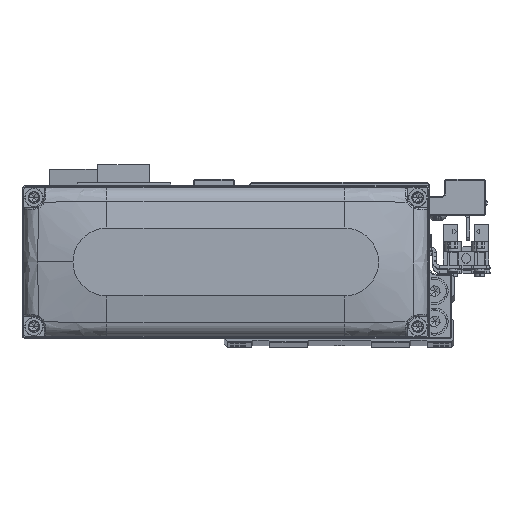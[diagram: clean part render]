
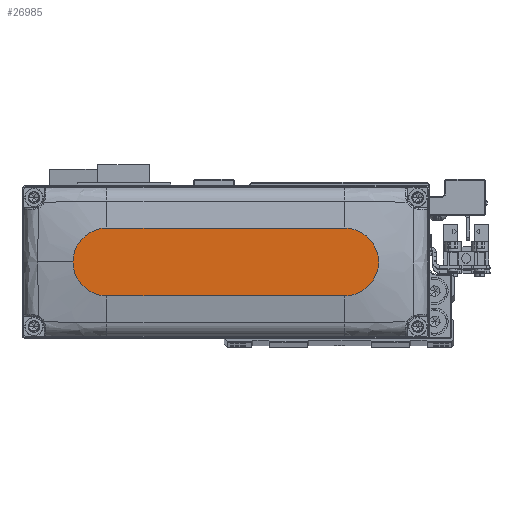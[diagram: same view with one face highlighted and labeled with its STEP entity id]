
A CAD part, top view. The second image highlights one B-rep face of the part: STEP entity #26985.
In plain terms, the highlighted planar face has unit normal (0, 0, 1).
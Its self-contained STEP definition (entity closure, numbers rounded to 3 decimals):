
#1045 = FACE_OUTER_BOUND ( 'NONE', #28909, .T. ) ;
#1625 = VERTEX_POINT ( 'NONE', #28971 ) ;
#2260 = ORIENTED_EDGE ( 'NONE', *, *, #12380, .T. ) ;
#2502 = LINE ( 'NONE', #25217, #3162 ) ;
#2569 = ORIENTED_EDGE ( 'NONE', *, *, #34926, .T. ) ;
#3162 = VECTOR ( 'NONE', #38190, 1000. ) ;
#4878 = AXIS2_PLACEMENT_3D ( 'NONE', #12886, #25825, #38795 ) ;
#5154 = DIRECTION ( 'NONE',  ( 1., 0., 0. ) ) ;
#5607 = DIRECTION ( 'NONE',  ( 0., 0., 1. ) ) ;
#7333 = CARTESIAN_POINT ( 'NONE',  ( 35., 10., 28. ) ) ;
#7500 = CARTESIAN_POINT ( 'NONE',  ( -35., -10., 28. ) ) ;
#9710 = CARTESIAN_POINT ( 'NONE',  ( -35., -10., 28. ) ) ;
#10391 = CIRCLE ( 'NONE', #34169, 10. ) ;
#10815 = DIRECTION ( 'NONE',  ( 1., 0., 0. ) ) ;
#10872 = AXIS2_PLACEMENT_3D ( 'NONE', #21295, #34256, #5154 ) ;
#11073 = VECTOR ( 'NONE', #22690, 1000. ) ;
#12380 = EDGE_CURVE ( 'NONE', #36942, #1625, #38838, .T. ) ;
#12886 = CARTESIAN_POINT ( 'NONE',  ( 35., 0., 28. ) ) ;
#14015 = PLANE ( 'NONE',  #16341 ) ;
#16341 = AXIS2_PLACEMENT_3D ( 'NONE', #26965, #39933, #10815 ) ;
#16900 = ORIENTED_EDGE ( 'NONE', *, *, #32517, .T. ) ;
#18567 = DIRECTION ( 'NONE',  ( 1., 0., 0. ) ) ;
#19406 = CARTESIAN_POINT ( 'NONE',  ( 45., 0., 28. ) ) ;
#20976 = VERTEX_POINT ( 'NONE', #19406 ) ;
#21295 = CARTESIAN_POINT ( 'NONE',  ( 35., 0., 28. ) ) ;
#22525 = EDGE_CURVE ( 'NONE', #1625, #20976, #29171, .T. ) ;
#22690 = DIRECTION ( 'NONE',  ( 1., 0., 0. ) ) ;
#23181 = CIRCLE ( 'NONE', #4878, 10. ) ;
#25217 = CARTESIAN_POINT ( 'NONE',  ( -35., 10., 28. ) ) ;
#25825 = DIRECTION ( 'NONE',  ( 0., 0., 1. ) ) ;
#26965 = CARTESIAN_POINT ( 'NONE',  ( 0., 0., 28. ) ) ;
#26985 = ADVANCED_FACE ( 'NONE', ( #1045 ), #14015, .T. ) ;
#28909 = EDGE_LOOP ( 'NONE', ( #16900, #34051, #2260, #40991, #2569 ) ) ;
#28971 = CARTESIAN_POINT ( 'NONE',  ( 35., -10., 28. ) ) ;
#29171 = CIRCLE ( 'NONE', #10872, 10. ) ;
#32517 = EDGE_CURVE ( 'NONE', #35070, #33751, #2502, .T. ) ;
#33195 = CARTESIAN_POINT ( 'NONE',  ( -35., 10., 28. ) ) ;
#33751 = VERTEX_POINT ( 'NONE', #33195 ) ;
#34051 = ORIENTED_EDGE ( 'NONE', *, *, #36649, .T. ) ;
#34169 = AXIS2_PLACEMENT_3D ( 'NONE', #34713, #5607, #18567 ) ;
#34256 = DIRECTION ( 'NONE',  ( 0., 0., 1. ) ) ;
#34713 = CARTESIAN_POINT ( 'NONE',  ( -35., 0., 28. ) ) ;
#34926 = EDGE_CURVE ( 'NONE', #20976, #35070, #23181, .T. ) ;
#35070 = VERTEX_POINT ( 'NONE', #7333 ) ;
#36649 = EDGE_CURVE ( 'NONE', #33751, #36942, #10391, .T. ) ;
#36942 = VERTEX_POINT ( 'NONE', #7500 ) ;
#38190 = DIRECTION ( 'NONE',  ( -1., 0., 0. ) ) ;
#38795 = DIRECTION ( 'NONE',  ( 1., 0., 0. ) ) ;
#38838 = LINE ( 'NONE', #9710, #11073 ) ;
#39933 = DIRECTION ( 'NONE',  ( 0., 0., 1. ) ) ;
#40991 = ORIENTED_EDGE ( 'NONE', *, *, #22525, .T. ) ;
